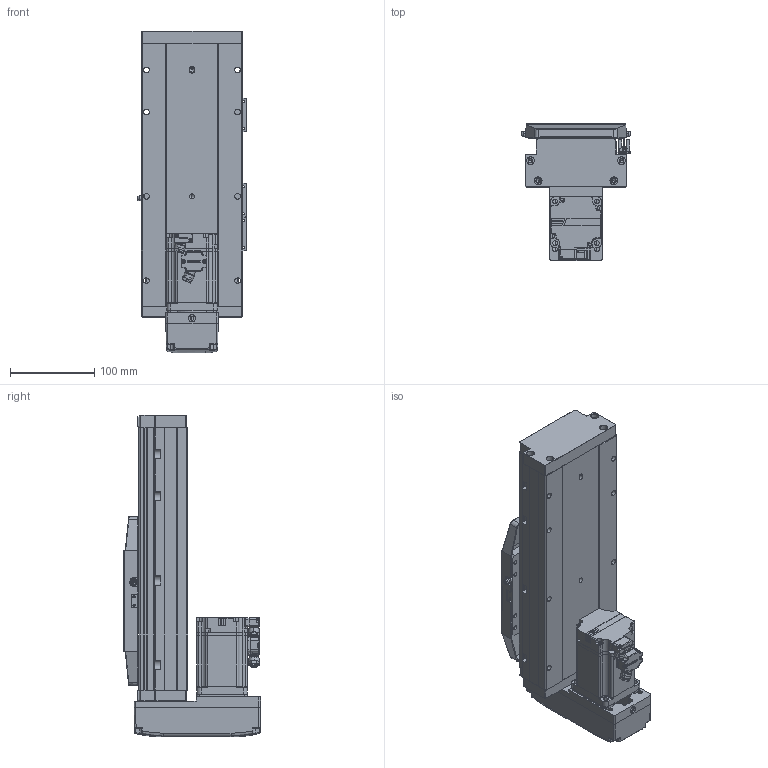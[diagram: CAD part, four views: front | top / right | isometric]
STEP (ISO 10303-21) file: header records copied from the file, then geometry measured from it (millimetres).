
FILE_DESCRIPTION (( 'STEP AP203' ), '1' );
FILE_NAME ('2.STEP', '2021-03-04T00:43:46', ( '' ), ( '' ), 'SwSTEP 2.0', 'SolidWorks 2016', '' );
FILE_SCHEMA (( 'CONFIG_CONTROL_DESIGN' ));
Length unit declared in the file: millimetre
Products named in the file (10): 2; CTH12-BM-HZ; CTH12-BM-02; CTH12-BM-05; PM-Y45; CTH12-BM-菁釱; CTH12-BM-01; CTH12-BM -04; MS1H1-40B30CB-A331Z-S_ASM_1; CTH12-BM-07
Assembly tree (14 placements, depth 2):
  2
    CTH12-BM-菁釱
    CTH12-BM-01
    CTH12-BM -04
    CTH12-BM-05  x2
    CTH12-BM-07  x3
    CTH12-BM-HZ
    PM-Y45  x3
    MS1H1-40B30CB-A331Z-S_ASM_1
    CTH12-BM-02
Bounding box: 129 x 162.5 x 381.5 mm (x, y, z)
Volume: 2386162.8 mm3; surface area: 426283.9 mm2
Topology: 25 solids, 51 shells, 3385 faces, 9077 edges, 5854 vertices
Faces by surface type: plane 1893, cylinder 965, bspline 323, cone 204
Entity records: 111116 total; most frequent: CARTESIAN_POINT 32253, ORIENTED_EDGE 16740, DIRECTION 15302, EDGE_CURVE 8386, VERTEX_POINT 5454, VECTOR 5450, LINE 5450, AXIS2_PLACEMENT_3D 4926
